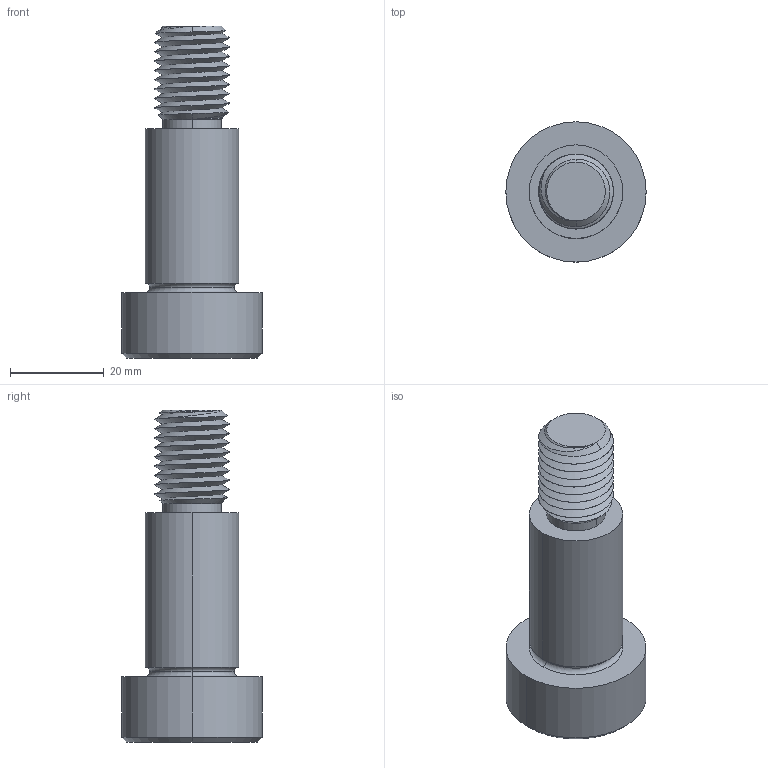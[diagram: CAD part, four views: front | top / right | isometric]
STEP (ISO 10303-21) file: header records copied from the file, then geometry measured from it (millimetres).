
FILE_DESCRIPTION (( 'STEP AP203' ), '1' );
FILE_NAME ('P0130.200-035-B2.step', '2021-11-09T22:21:24', ( '' ), ( '' ), 'SwSTEP 2.0', 'SolidWorks 2019', '' );
FILE_SCHEMA (( 'CONFIG_CONTROL_DESIGN' ));
Length unit declared in the file: millimetre
Products named in the file (1): P0130.200-035-B2
Bounding box: 30 x 30 x 71 mm (x, y, z)
Volume: 23207.3 mm3; surface area: 7103 mm2
Topology: 1 solids, 1 shells, 60 faces, 142 edges, 85 vertices
Faces by surface type: cylinder 24, plane 16, cone 14, torus 4, bspline 2
Entity records: 5678 total; most frequent: CARTESIAN_POINT 4332, ORIENTED_EDGE 280, DIRECTION 247, EDGE_CURVE 140, AXIS2_PLACEMENT_3D 99, VERTEX_POINT 85, EDGE_LOOP 63, FACE_OUTER_BOUND 60
